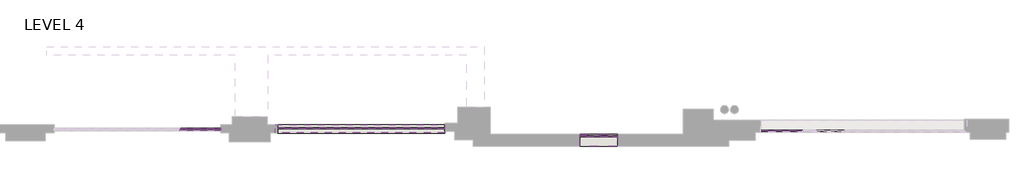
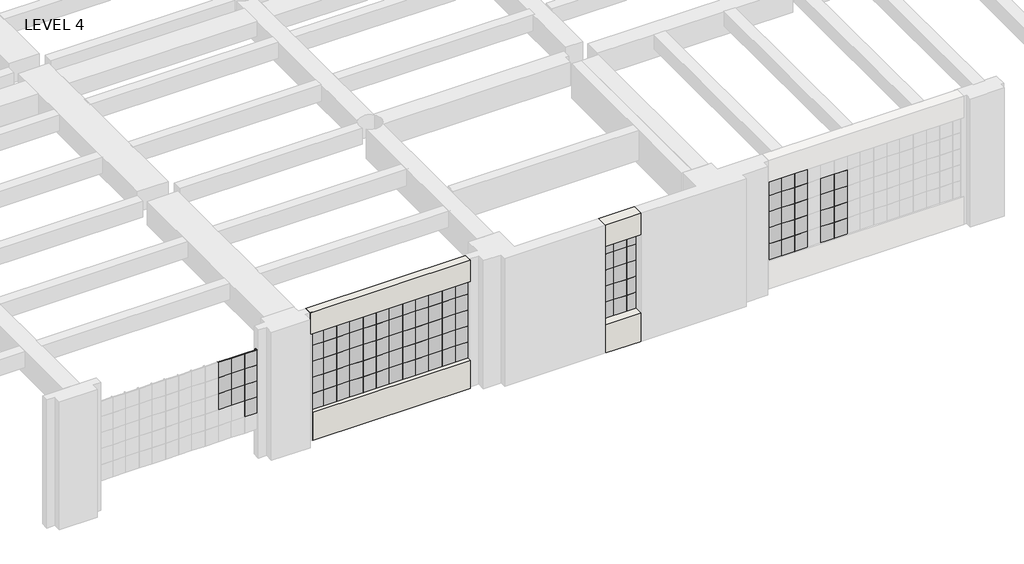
# One storey, part 8 of 26: 108 plates, 20 members, 4 walls.
"""IFC4 building model written with IfcOpenShell, lengths in millimetres."""

from ifc_helpers import new_model, si_unit, frame, origin, origin_with_axes, place, context, project, spatial, polyline, outline, extrude, transform, mapped, element, save
from components import member_038dcf1c, member_0e6c94ff, member_643a3807, member_6c57b699, member_ec43e15b, member_0f6da5c5, member_704305d1, member_9a471d53, system_panel_glazed_ab35d819, system_panel_glazed_331c9a5d, system_panel_glazed_917ff89a, system_panel_glazed_9007666c, system_panel_glazed_418eb6cd, system_panel_glazed_52470d25, system_panel_glazed_8fab215f, system_panel_glazed_a50cffbe

model = new_model("IFC4")

# Units and contexts
model_context = context("Model", 3, world=origin())
ifc_project = project(units=[si_unit("LENGTHUNIT", "METRE", prefix="MILLI")], contexts=[model_context])

# Site, building, storey
site = spatial("IfcSite", under=ifc_project)
building = spatial("IfcBuilding", under=site)
storey = spatial("IfcBuildingStorey", under=building, Name="LEVEL 4", Elevation=0.0)

# Members
placement = place(None, origin())
member_shape = member_038dcf1c(model_context)
element("IfcMember", 1, ObjectType="Circular Mullion : 1 1/4\" Square", at=placement, inside=storey, context=model_context, shape_type="MappedRepresentation", body=[
    mapped(member_shape, transform((-20956.6085473, 87322.5091334, 2171.7), x_axis=(1.0, 0.0, 0.0), y_axis=(0.0, -1.0, 0.0), z_axis=(0.0, 0.0, -1.0))),
])
element("IfcMember", 2, ObjectType="Circular Mullion : 1 1/4\" Square", at=placement, inside=storey, context=model_context, shape_type="MappedRepresentation", body=[
    mapped(member_shape, transform((-20956.6085473, 87322.5091334, 1714.5), x_axis=(1.0, 0.0, 0.0), y_axis=(0.0, -1.0, 0.0), z_axis=(0.0, 0.0, -1.0))),
])
element("IfcMember", 3, ObjectType="Circular Mullion : 1 1/4\" Square", at=placement, inside=storey, context=model_context, shape_type="MappedRepresentation", body=[
    mapped(member_shape, transform((-20956.6085473, 87322.5091334, 1257.3), x_axis=(1.0, 0.0, 0.0), y_axis=(0.0, -1.0, 0.0), z_axis=(0.0, 0.0, -1.0))),
])
element("IfcMember", 4, ObjectType="Circular Mullion : 1 1/4\" Square", at=placement, inside=storey, context=model_context, shape_type="MappedRepresentation", body=[
    mapped(member_shape, transform((-20956.6085473, 87322.5091334, 800.1), x_axis=(1.0, 0.0, 0.0), y_axis=(0.0, -1.0, 0.0), z_axis=(0.0, 0.0, -1.0))),
])
member_2_shape = member_0e6c94ff(model_context)
element("IfcMember", 5, ObjectType="Circular Mullion : 1 1/4\" Square", at=placement, inside=storey, context=model_context, shape_type="MappedRepresentation", body=[
    mapped(member_2_shape, transform((-20956.6085473, 87322.5091334, 2628.9), x_axis=(1.0, 0.0, 0.0), y_axis=(0.0, -1.0, 0.0), z_axis=(0.0, 0.0, -1.0))),
])
member_3_shape = member_643a3807(model_context)
element("IfcMember", 6, ObjectType="Circular Mullion : 1 1/4\" Square", at=placement, inside=storey, context=model_context, shape_type="MappedRepresentation", body=[
    mapped(member_3_shape, transform((-21294.9456347, 87322.5091334, 2628.9), x_axis=(0.0, 0.0, 1.0), y_axis=(0.0, -1.0, 0.0), z_axis=(1.0, 0.0, 0.0))),
])
element("IfcMember", 7, ObjectType="Circular Mullion : 1 1/4\" Square", at=placement, inside=storey, context=model_context, shape_type="MappedRepresentation", body=[
    mapped(member_3_shape, transform((-21294.9456347, 87322.5091334, 2171.7), x_axis=(0.0, 0.0, 1.0), y_axis=(0.0, -1.0, 0.0), z_axis=(1.0, 0.0, 0.0))),
])
element("IfcMember", 8, ObjectType="Circular Mullion : 1 1/4\" Square", at=placement, inside=storey, context=model_context, shape_type="MappedRepresentation", body=[
    mapped(member_3_shape, transform((-21294.9456347, 87322.5091334, 1714.5), x_axis=(0.0, 0.0, 1.0), y_axis=(0.0, -1.0, 0.0), z_axis=(1.0, 0.0, 0.0))),
])
element("IfcMember", 9, ObjectType="Circular Mullion : 1 1/4\" Square", at=placement, inside=storey, context=model_context, shape_type="MappedRepresentation", body=[
    mapped(member_3_shape, transform((-21294.9456347, 87322.5091334, 1257.3), x_axis=(0.0, 0.0, 1.0), y_axis=(0.0, -1.0, 0.0), z_axis=(1.0, 0.0, 0.0))),
])
member_4_shape = member_6c57b699(model_context)
element("IfcMember", 10, ObjectType="Circular Mullion : 1 1/4\" Square", at=placement, inside=storey, context=model_context, shape_type="MappedRepresentation", body=[
    mapped(member_4_shape, transform((-21650.5456347, 87322.5091334, 2628.9), x_axis=(0.0, 0.0, 1.0), y_axis=(0.0, -1.0, 0.0), z_axis=(1.0, 0.0, 0.0))),
])
element("IfcMember", 11, ObjectType="Circular Mullion : 1 1/4\" Square", at=placement, inside=storey, context=model_context, shape_type="MappedRepresentation", body=[
    mapped(member_4_shape, transform((-21650.5456347, 87322.5091334, 2171.7), x_axis=(0.0, 0.0, 1.0), y_axis=(0.0, -1.0, 0.0), z_axis=(1.0, 0.0, 0.0))),
])
element("IfcMember", 12, ObjectType="Circular Mullion : 1 1/4\" Square", at=placement, inside=storey, context=model_context, shape_type="MappedRepresentation", body=[
    mapped(member_4_shape, transform((-21650.5456347, 87322.5091334, 1714.5), x_axis=(0.0, 0.0, 1.0), y_axis=(0.0, -1.0, 0.0), z_axis=(1.0, 0.0, 0.0))),
])
element("IfcMember", 13, ObjectType="Circular Mullion : 1 1/4\" Square", at=placement, inside=storey, context=model_context, shape_type="MappedRepresentation", body=[
    mapped(member_4_shape, transform((-21650.5456347, 87322.5091334, 1257.3), x_axis=(0.0, 0.0, 1.0), y_axis=(0.0, -1.0, 0.0), z_axis=(1.0, 0.0, 0.0))),
])
member_5_shape = member_ec43e15b(model_context)
element("IfcMember", 14, ObjectType="Circular Mullion : 1 1/4\" Square", at=placement, inside=storey, context=model_context, shape_type="MappedRepresentation", body=[
    mapped(member_5_shape, transform((-21650.5456347, 87322.5091334, 800.1), x_axis=(0.0, 0.0, -1.0), y_axis=(0.0, -1.0, 0.0), z_axis=(-1.0, 0.0, 0.0))),
])
member_6_shape = member_0f6da5c5(model_context)
element("IfcMember", 15, ObjectType="Circular Mullion : 1 1/4\" Square", at=placement, inside=storey, context=model_context, shape_type="MappedRepresentation", body=[
    mapped(member_6_shape, transform((-21993.4456347, 87322.5091334, 800.1), x_axis=(0.0, 0.0, -1.0), y_axis=(0.0, -1.0, 0.0), z_axis=(-1.0, 0.0, 0.0))),
])
member_7_shape = member_704305d1(model_context)
element("IfcMember", 16, ObjectType="Circular Mullion : 1 1/4\" Square", at=placement, inside=storey, context=model_context, shape_type="MappedRepresentation", body=[
    mapped(member_7_shape, transform((-21294.9456347, 87322.5091334, 800.1), x_axis=(0.0, 0.0, -1.0), y_axis=(0.0, -1.0, 0.0), z_axis=(-1.0, 0.0, 0.0))),
])
member_8_shape = member_9a471d53(model_context)
element("IfcMember", 17, ObjectType="Circular Mullion : 1 1/4\" Square", at=placement, inside=storey, context=model_context, shape_type="MappedRepresentation", body=[
    mapped(member_8_shape, transform((-20982.0085473, 87322.5091334, 2628.9), x_axis=(0.0, 0.0, 1.0), y_axis=(0.0, -1.0, 0.0), z_axis=(1.0, 0.0, 0.0))),
])
element("IfcMember", 18, ObjectType="Circular Mullion : 1 1/4\" Square", at=placement, inside=storey, context=model_context, shape_type="MappedRepresentation", body=[
    mapped(member_8_shape, transform((-20982.0085473, 87322.5091334, 2171.7), x_axis=(0.0, 0.0, 1.0), y_axis=(0.0, -1.0, 0.0), z_axis=(1.0, 0.0, 0.0))),
])
element("IfcMember", 19, ObjectType="Circular Mullion : 1 1/4\" Square", at=placement, inside=storey, context=model_context, shape_type="MappedRepresentation", body=[
    mapped(member_8_shape, transform((-20982.0085473, 87322.5091334, 1714.5), x_axis=(0.0, 0.0, 1.0), y_axis=(0.0, -1.0, 0.0), z_axis=(1.0, 0.0, 0.0))),
])
element("IfcMember", 20, ObjectType="Circular Mullion : 1 1/4\" Square", at=placement, inside=storey, context=model_context, shape_type="MappedRepresentation", body=[
    mapped(member_8_shape, transform((-20982.0085473, 87322.5091334, 1257.3), x_axis=(0.0, 0.0, 1.0), y_axis=(0.0, -1.0, 0.0), z_axis=(1.0, 0.0, 0.0))),
])

# Plates
system_panel_glazed_shape = system_panel_glazed_ab35d819(model_context)
element("IfcPlate", 21, ObjectType="System Panel : Glazed", at=placement, inside=storey, context=model_context, shape_type="MappedRepresentation", body=[
    mapped(system_panel_glazed_shape, transform((-19320.130019, 87366.3092432, 800.1), x_axis=(1.0, 0.0, 0.0), y_axis=(0.0, 1.0, 0.0), z_axis=(0.0, 0.0, 1.0))),
])
element("IfcPlate", 22, ObjectType="System Panel : Glazed", at=placement, inside=storey, context=model_context, shape_type="MappedRepresentation", body=[
    mapped(system_panel_glazed_shape, transform((-15764.1300189, 87366.3092432, 800.1), x_axis=(1.0, 0.0, 0.0), y_axis=(0.0, 1.0, 0.0), z_axis=(0.0, 0.0, 1.0))),
])
element("IfcPlate", 23, ObjectType="System Panel : Glazed", at=placement, inside=storey, context=model_context, shape_type="MappedRepresentation", body=[
    mapped(system_panel_glazed_shape, transform((-11615.7585471, 87161.7778542, 800.1), x_axis=(1.0, 0.0, 0.0), y_axis=(0.0, 1.0, 0.0), z_axis=(0.0, 0.0, 1.0))),
])
element("IfcPlate", 24, ObjectType="System Panel : Glazed", at=placement, inside=storey, context=model_context, shape_type="MappedRepresentation", body=[
    mapped(system_panel_glazed_shape, transform((-6999.3085471, 87313.5556598, 800.1), x_axis=(1.0, 0.0, 0.0), y_axis=(0.0, 1.0, 0.0), z_axis=(0.0, 0.0, 1.0))),
])
element("IfcPlate", 25, ObjectType="System Panel : Glazed", at=placement, inside=storey, context=model_context, shape_type="MappedRepresentation", body=[
    mapped(system_panel_glazed_shape, transform((-21828.3456347, 87322.5091334, 1714.5), x_axis=(1.0, 0.0, 0.0), y_axis=(0.0, 1.0, 0.0), z_axis=(0.0, 0.0, 1.0))),
])
element("IfcPlate", 26, ObjectType="System Panel : Glazed", at=placement, inside=storey, context=model_context, shape_type="MappedRepresentation", body=[
    mapped(system_panel_glazed_shape, transform((-21472.7456347, 87322.5091334, 1714.5), x_axis=(1.0, 0.0, 0.0), y_axis=(0.0, 1.0, 0.0), z_axis=(0.0, 0.0, 1.0))),
])
element("IfcPlate", 27, ObjectType="System Panel : Glazed", at=placement, inside=storey, context=model_context, shape_type="MappedRepresentation", body=[
    mapped(system_panel_glazed_shape, transform((-21828.3456347, 87322.5091334, 2171.7), x_axis=(1.0, 0.0, 0.0), y_axis=(0.0, 1.0, 0.0), z_axis=(0.0, 0.0, 1.0))),
])
element("IfcPlate", 28, ObjectType="System Panel : Glazed", at=placement, inside=storey, context=model_context, shape_type="MappedRepresentation", body=[
    mapped(system_panel_glazed_shape, transform((-21472.7456347, 87322.5091334, 2171.7), x_axis=(1.0, 0.0, 0.0), y_axis=(0.0, 1.0, 0.0), z_axis=(0.0, 0.0, 1.0))),
])
element("IfcPlate", 29, ObjectType="System Panel : Glazed", at=placement, inside=storey, context=model_context, shape_type="MappedRepresentation", body=[
    mapped(system_panel_glazed_shape, transform((-16119.7300189, 87366.3092432, 800.1), x_axis=(1.0, 0.0, 0.0), y_axis=(0.0, 1.0, 0.0), z_axis=(0.0, 0.0, 1.0))),
])
element("IfcPlate", 30, ObjectType="System Panel : Glazed", at=placement, inside=storey, context=model_context, shape_type="MappedRepresentation", body=[
    mapped(system_panel_glazed_shape, transform((-16475.3300189, 87366.3092432, 800.1), x_axis=(1.0, 0.0, 0.0), y_axis=(0.0, 1.0, 0.0), z_axis=(0.0, 0.0, 1.0))),
])
element("IfcPlate", 31, ObjectType="System Panel : Glazed", at=placement, inside=storey, context=model_context, shape_type="MappedRepresentation", body=[
    mapped(system_panel_glazed_shape, transform((-16830.9300189, 87366.3092432, 800.1), x_axis=(1.0, 0.0, 0.0), y_axis=(0.0, 1.0, 0.0), z_axis=(0.0, 0.0, 1.0))),
])
element("IfcPlate", 32, ObjectType="System Panel : Glazed", at=placement, inside=storey, context=model_context, shape_type="MappedRepresentation", body=[
    mapped(system_panel_glazed_shape, transform((-17186.5300189, 87366.3092432, 800.1), x_axis=(1.0, 0.0, 0.0), y_axis=(0.0, 1.0, 0.0), z_axis=(0.0, 0.0, 1.0))),
])
element("IfcPlate", 33, ObjectType="System Panel : Glazed", at=placement, inside=storey, context=model_context, shape_type="MappedRepresentation", body=[
    mapped(system_panel_glazed_shape, transform((-17542.1300189, 87366.3092432, 800.1), x_axis=(1.0, 0.0, 0.0), y_axis=(0.0, 1.0, 0.0), z_axis=(0.0, 0.0, 1.0))),
])
element("IfcPlate", 34, ObjectType="System Panel : Glazed", at=placement, inside=storey, context=model_context, shape_type="MappedRepresentation", body=[
    mapped(system_panel_glazed_shape, transform((-17897.7300189, 87366.3092432, 800.1), x_axis=(1.0, 0.0, 0.0), y_axis=(0.0, 1.0, 0.0), z_axis=(0.0, 0.0, 1.0))),
])
element("IfcPlate", 35, ObjectType="System Panel : Glazed", at=placement, inside=storey, context=model_context, shape_type="MappedRepresentation", body=[
    mapped(system_panel_glazed_shape, transform((-18253.3300189, 87366.3092432, 800.1), x_axis=(1.0, 0.0, 0.0), y_axis=(0.0, 1.0, 0.0), z_axis=(0.0, 0.0, 1.0))),
])
element("IfcPlate", 36, ObjectType="System Panel : Glazed", at=placement, inside=storey, context=model_context, shape_type="MappedRepresentation", body=[
    mapped(system_panel_glazed_shape, transform((-19320.130019, 87366.3092432, 1257.3), x_axis=(1.0, 0.0, 0.0), y_axis=(0.0, 1.0, 0.0), z_axis=(0.0, 0.0, 1.0))),
])
element("IfcPlate", 37, ObjectType="System Panel : Glazed", at=placement, inside=storey, context=model_context, shape_type="MappedRepresentation", body=[
    mapped(system_panel_glazed_shape, transform((-16119.7300189, 87366.3092432, 1257.3), x_axis=(1.0, 0.0, 0.0), y_axis=(0.0, 1.0, 0.0), z_axis=(0.0, 0.0, 1.0))),
])
element("IfcPlate", 38, ObjectType="System Panel : Glazed", at=placement, inside=storey, context=model_context, shape_type="MappedRepresentation", body=[
    mapped(system_panel_glazed_shape, transform((-16475.3300189, 87366.3092432, 1257.3), x_axis=(1.0, 0.0, 0.0), y_axis=(0.0, 1.0, 0.0), z_axis=(0.0, 0.0, 1.0))),
])
element("IfcPlate", 39, ObjectType="System Panel : Glazed", at=placement, inside=storey, context=model_context, shape_type="MappedRepresentation", body=[
    mapped(system_panel_glazed_shape, transform((-16830.9300189, 87366.3092432, 1257.3), x_axis=(1.0, 0.0, 0.0), y_axis=(0.0, 1.0, 0.0), z_axis=(0.0, 0.0, 1.0))),
])
element("IfcPlate", 40, ObjectType="System Panel : Glazed", at=placement, inside=storey, context=model_context, shape_type="MappedRepresentation", body=[
    mapped(system_panel_glazed_shape, transform((-17186.5300189, 87366.3092432, 1257.3), x_axis=(1.0, 0.0, 0.0), y_axis=(0.0, 1.0, 0.0), z_axis=(0.0, 0.0, 1.0))),
])
element("IfcPlate", 41, ObjectType="System Panel : Glazed", at=placement, inside=storey, context=model_context, shape_type="MappedRepresentation", body=[
    mapped(system_panel_glazed_shape, transform((-17542.1300189, 87366.3092432, 1257.3), x_axis=(1.0, 0.0, 0.0), y_axis=(0.0, 1.0, 0.0), z_axis=(0.0, 0.0, 1.0))),
])
element("IfcPlate", 42, ObjectType="System Panel : Glazed", at=placement, inside=storey, context=model_context, shape_type="MappedRepresentation", body=[
    mapped(system_panel_glazed_shape, transform((-17897.7300189, 87366.3092432, 1257.3), x_axis=(1.0, 0.0, 0.0), y_axis=(0.0, 1.0, 0.0), z_axis=(0.0, 0.0, 1.0))),
])
element("IfcPlate", 43, ObjectType="System Panel : Glazed", at=placement, inside=storey, context=model_context, shape_type="MappedRepresentation", body=[
    mapped(system_panel_glazed_shape, transform((-18253.3300189, 87366.3092432, 1257.3), x_axis=(1.0, 0.0, 0.0), y_axis=(0.0, 1.0, 0.0), z_axis=(0.0, 0.0, 1.0))),
])
element("IfcPlate", 44, ObjectType="System Panel : Glazed", at=placement, inside=storey, context=model_context, shape_type="MappedRepresentation", body=[
    mapped(system_panel_glazed_shape, transform((-15764.1300189, 87366.3092432, 1257.3), x_axis=(1.0, 0.0, 0.0), y_axis=(0.0, 1.0, 0.0), z_axis=(0.0, 0.0, 1.0))),
])
element("IfcPlate", 45, ObjectType="System Panel : Glazed", at=placement, inside=storey, context=model_context, shape_type="MappedRepresentation", body=[
    mapped(system_panel_glazed_shape, transform((-19320.130019, 87366.3092432, 1714.5), x_axis=(1.0, 0.0, 0.0), y_axis=(0.0, 1.0, 0.0), z_axis=(0.0, 0.0, 1.0))),
])
element("IfcPlate", 46, ObjectType="System Panel : Glazed", at=placement, inside=storey, context=model_context, shape_type="MappedRepresentation", body=[
    mapped(system_panel_glazed_shape, transform((-16119.7300189, 87366.3092432, 1714.5), x_axis=(1.0, 0.0, 0.0), y_axis=(0.0, 1.0, 0.0), z_axis=(0.0, 0.0, 1.0))),
])
element("IfcPlate", 47, ObjectType="System Panel : Glazed", at=placement, inside=storey, context=model_context, shape_type="MappedRepresentation", body=[
    mapped(system_panel_glazed_shape, transform((-16475.3300189, 87366.3092432, 1714.5), x_axis=(1.0, 0.0, 0.0), y_axis=(0.0, 1.0, 0.0), z_axis=(0.0, 0.0, 1.0))),
])
element("IfcPlate", 48, ObjectType="System Panel : Glazed", at=placement, inside=storey, context=model_context, shape_type="MappedRepresentation", body=[
    mapped(system_panel_glazed_shape, transform((-16830.9300189, 87366.3092432, 1714.5), x_axis=(1.0, 0.0, 0.0), y_axis=(0.0, 1.0, 0.0), z_axis=(0.0, 0.0, 1.0))),
])
element("IfcPlate", 49, ObjectType="System Panel : Glazed", at=placement, inside=storey, context=model_context, shape_type="MappedRepresentation", body=[
    mapped(system_panel_glazed_shape, transform((-17186.5300189, 87366.3092432, 1714.5), x_axis=(1.0, 0.0, 0.0), y_axis=(0.0, 1.0, 0.0), z_axis=(0.0, 0.0, 1.0))),
])
element("IfcPlate", 50, ObjectType="System Panel : Glazed", at=placement, inside=storey, context=model_context, shape_type="MappedRepresentation", body=[
    mapped(system_panel_glazed_shape, transform((-17542.1300189, 87366.3092432, 1714.5), x_axis=(1.0, 0.0, 0.0), y_axis=(0.0, 1.0, 0.0), z_axis=(0.0, 0.0, 1.0))),
])
element("IfcPlate", 51, ObjectType="System Panel : Glazed", at=placement, inside=storey, context=model_context, shape_type="MappedRepresentation", body=[
    mapped(system_panel_glazed_shape, transform((-17897.7300189, 87366.3092432, 1714.5), x_axis=(1.0, 0.0, 0.0), y_axis=(0.0, 1.0, 0.0), z_axis=(0.0, 0.0, 1.0))),
])
element("IfcPlate", 52, ObjectType="System Panel : Glazed", at=placement, inside=storey, context=model_context, shape_type="MappedRepresentation", body=[
    mapped(system_panel_glazed_shape, transform((-18253.3300189, 87366.3092432, 1714.5), x_axis=(1.0, 0.0, 0.0), y_axis=(0.0, 1.0, 0.0), z_axis=(0.0, 0.0, 1.0))),
])
element("IfcPlate", 53, ObjectType="System Panel : Glazed", at=placement, inside=storey, context=model_context, shape_type="MappedRepresentation", body=[
    mapped(system_panel_glazed_shape, transform((-15764.1300189, 87366.3092432, 1714.5), x_axis=(1.0, 0.0, 0.0), y_axis=(0.0, 1.0, 0.0), z_axis=(0.0, 0.0, 1.0))),
])
element("IfcPlate", 54, ObjectType="System Panel : Glazed", at=placement, inside=storey, context=model_context, shape_type="MappedRepresentation", body=[
    mapped(system_panel_glazed_shape, transform((-19320.130019, 87366.3092432, 2171.7), x_axis=(1.0, 0.0, 0.0), y_axis=(0.0, 1.0, 0.0), z_axis=(0.0, 0.0, 1.0))),
])
element("IfcPlate", 55, ObjectType="System Panel : Glazed", at=placement, inside=storey, context=model_context, shape_type="MappedRepresentation", body=[
    mapped(system_panel_glazed_shape, transform((-16119.7300189, 87366.3092432, 2171.7), x_axis=(1.0, 0.0, 0.0), y_axis=(0.0, 1.0, 0.0), z_axis=(0.0, 0.0, 1.0))),
])
element("IfcPlate", 56, ObjectType="System Panel : Glazed", at=placement, inside=storey, context=model_context, shape_type="MappedRepresentation", body=[
    mapped(system_panel_glazed_shape, transform((-16475.3300189, 87366.3092432, 2171.7), x_axis=(1.0, 0.0, 0.0), y_axis=(0.0, 1.0, 0.0), z_axis=(0.0, 0.0, 1.0))),
])
element("IfcPlate", 57, ObjectType="System Panel : Glazed", at=placement, inside=storey, context=model_context, shape_type="MappedRepresentation", body=[
    mapped(system_panel_glazed_shape, transform((-16830.9300189, 87366.3092432, 2171.7), x_axis=(1.0, 0.0, 0.0), y_axis=(0.0, 1.0, 0.0), z_axis=(0.0, 0.0, 1.0))),
])
element("IfcPlate", 58, ObjectType="System Panel : Glazed", at=placement, inside=storey, context=model_context, shape_type="MappedRepresentation", body=[
    mapped(system_panel_glazed_shape, transform((-17186.5300189, 87366.3092432, 2171.7), x_axis=(1.0, 0.0, 0.0), y_axis=(0.0, 1.0, 0.0), z_axis=(0.0, 0.0, 1.0))),
])
element("IfcPlate", 59, ObjectType="System Panel : Glazed", at=placement, inside=storey, context=model_context, shape_type="MappedRepresentation", body=[
    mapped(system_panel_glazed_shape, transform((-17542.1300189, 87366.3092432, 2171.7), x_axis=(1.0, 0.0, 0.0), y_axis=(0.0, 1.0, 0.0), z_axis=(0.0, 0.0, 1.0))),
])
element("IfcPlate", 60, ObjectType="System Panel : Glazed", at=placement, inside=storey, context=model_context, shape_type="MappedRepresentation", body=[
    mapped(system_panel_glazed_shape, transform((-17897.7300189, 87366.3092432, 2171.7), x_axis=(1.0, 0.0, 0.0), y_axis=(0.0, 1.0, 0.0), z_axis=(0.0, 0.0, 1.0))),
])
element("IfcPlate", 61, ObjectType="System Panel : Glazed", at=placement, inside=storey, context=model_context, shape_type="MappedRepresentation", body=[
    mapped(system_panel_glazed_shape, transform((-18253.3300189, 87366.3092432, 2171.7), x_axis=(1.0, 0.0, 0.0), y_axis=(0.0, 1.0, 0.0), z_axis=(0.0, 0.0, 1.0))),
])
element("IfcPlate", 62, ObjectType="System Panel : Glazed", at=placement, inside=storey, context=model_context, shape_type="MappedRepresentation", body=[
    mapped(system_panel_glazed_shape, transform((-15764.1300189, 87366.3092432, 2171.7), x_axis=(1.0, 0.0, 0.0), y_axis=(0.0, 1.0, 0.0), z_axis=(0.0, 0.0, 1.0))),
])
element("IfcPlate", 63, ObjectType="System Panel : Glazed", at=placement, inside=storey, context=model_context, shape_type="MappedRepresentation", body=[
    mapped(system_panel_glazed_shape, transform((-11260.158547, 87161.7778542, 800.1), x_axis=(1.0, 0.0, 0.0), y_axis=(0.0, 1.0, 0.0), z_axis=(0.0, 0.0, 1.0))),
])
element("IfcPlate", 64, ObjectType="System Panel : Glazed", at=placement, inside=storey, context=model_context, shape_type="MappedRepresentation", body=[
    mapped(system_panel_glazed_shape, transform((-11615.7585471, 87161.7778542, 1257.3), x_axis=(1.0, 0.0, 0.0), y_axis=(0.0, 1.0, 0.0), z_axis=(0.0, 0.0, 1.0))),
])
element("IfcPlate", 65, ObjectType="System Panel : Glazed", at=placement, inside=storey, context=model_context, shape_type="MappedRepresentation", body=[
    mapped(system_panel_glazed_shape, transform((-11260.158547, 87161.7778542, 1257.3), x_axis=(1.0, 0.0, 0.0), y_axis=(0.0, 1.0, 0.0), z_axis=(0.0, 0.0, 1.0))),
])
element("IfcPlate", 66, ObjectType="System Panel : Glazed", at=placement, inside=storey, context=model_context, shape_type="MappedRepresentation", body=[
    mapped(system_panel_glazed_shape, transform((-11615.7585471, 87161.7778542, 1714.5), x_axis=(1.0, 0.0, 0.0), y_axis=(0.0, 1.0, 0.0), z_axis=(0.0, 0.0, 1.0))),
])
element("IfcPlate", 67, ObjectType="System Panel : Glazed", at=placement, inside=storey, context=model_context, shape_type="MappedRepresentation", body=[
    mapped(system_panel_glazed_shape, transform((-11260.158547, 87161.7778542, 1714.5), x_axis=(1.0, 0.0, 0.0), y_axis=(0.0, 1.0, 0.0), z_axis=(0.0, 0.0, 1.0))),
])
element("IfcPlate", 68, ObjectType="System Panel : Glazed", at=placement, inside=storey, context=model_context, shape_type="MappedRepresentation", body=[
    mapped(system_panel_glazed_shape, transform((-11615.7585471, 87161.7778542, 2171.7), x_axis=(1.0, 0.0, 0.0), y_axis=(0.0, 1.0, 0.0), z_axis=(0.0, 0.0, 1.0))),
])
element("IfcPlate", 69, ObjectType="System Panel : Glazed", at=placement, inside=storey, context=model_context, shape_type="MappedRepresentation", body=[
    mapped(system_panel_glazed_shape, transform((-11260.158547, 87161.7778542, 2171.7), x_axis=(1.0, 0.0, 0.0), y_axis=(0.0, 1.0, 0.0), z_axis=(0.0, 0.0, 1.0))),
])
element("IfcPlate", 70, ObjectType="System Panel : Glazed", at=placement, inside=storey, context=model_context, shape_type="MappedRepresentation", body=[
    mapped(system_panel_glazed_shape, transform((-5221.308547, 87313.5556598, 800.1), x_axis=(1.0, 0.0, 0.0), y_axis=(0.0, 1.0, 0.0), z_axis=(0.0, 0.0, 1.0))),
])
element("IfcPlate", 71, ObjectType="System Panel : Glazed", at=placement, inside=storey, context=model_context, shape_type="MappedRepresentation", body=[
    mapped(system_panel_glazed_shape, transform((-5576.908547, 87313.5556598, 800.1), x_axis=(1.0, 0.0, 0.0), y_axis=(0.0, 1.0, 0.0), z_axis=(0.0, 0.0, 1.0))),
])
element("IfcPlate", 72, ObjectType="System Panel : Glazed", at=placement, inside=storey, context=model_context, shape_type="MappedRepresentation", body=[
    mapped(system_panel_glazed_shape, transform((-6999.3085471, 87313.5556598, 1257.3), x_axis=(1.0, 0.0, 0.0), y_axis=(0.0, 1.0, 0.0), z_axis=(0.0, 0.0, 1.0))),
])
element("IfcPlate", 73, ObjectType="System Panel : Glazed", at=placement, inside=storey, context=model_context, shape_type="MappedRepresentation", body=[
    mapped(system_panel_glazed_shape, transform((-5221.308547, 87313.5556598, 1257.3), x_axis=(1.0, 0.0, 0.0), y_axis=(0.0, 1.0, 0.0), z_axis=(0.0, 0.0, 1.0))),
])
element("IfcPlate", 74, ObjectType="System Panel : Glazed", at=placement, inside=storey, context=model_context, shape_type="MappedRepresentation", body=[
    mapped(system_panel_glazed_shape, transform((-5576.908547, 87313.5556598, 1257.3), x_axis=(1.0, 0.0, 0.0), y_axis=(0.0, 1.0, 0.0), z_axis=(0.0, 0.0, 1.0))),
])
element("IfcPlate", 75, ObjectType="System Panel : Glazed", at=placement, inside=storey, context=model_context, shape_type="MappedRepresentation", body=[
    mapped(system_panel_glazed_shape, transform((-6999.3085471, 87313.5556598, 1714.5), x_axis=(1.0, 0.0, 0.0), y_axis=(0.0, 1.0, 0.0), z_axis=(0.0, 0.0, 1.0))),
])
element("IfcPlate", 76, ObjectType="System Panel : Glazed", at=placement, inside=storey, context=model_context, shape_type="MappedRepresentation", body=[
    mapped(system_panel_glazed_shape, transform((-5221.308547, 87313.5556598, 1714.5), x_axis=(1.0, 0.0, 0.0), y_axis=(0.0, 1.0, 0.0), z_axis=(0.0, 0.0, 1.0))),
])
element("IfcPlate", 77, ObjectType="System Panel : Glazed", at=placement, inside=storey, context=model_context, shape_type="MappedRepresentation", body=[
    mapped(system_panel_glazed_shape, transform((-5576.908547, 87313.5556598, 1714.5), x_axis=(1.0, 0.0, 0.0), y_axis=(0.0, 1.0, 0.0), z_axis=(0.0, 0.0, 1.0))),
])
element("IfcPlate", 78, ObjectType="System Panel : Glazed", at=placement, inside=storey, context=model_context, shape_type="MappedRepresentation", body=[
    mapped(system_panel_glazed_shape, transform((-6999.3085471, 87313.5556598, 2171.7), x_axis=(1.0, 0.0, 0.0), y_axis=(0.0, 1.0, 0.0), z_axis=(0.0, 0.0, 1.0))),
])
element("IfcPlate", 79, ObjectType="System Panel : Glazed", at=placement, inside=storey, context=model_context, shape_type="MappedRepresentation", body=[
    mapped(system_panel_glazed_shape, transform((-5221.308547, 87313.5556598, 2171.7), x_axis=(1.0, 0.0, 0.0), y_axis=(0.0, 1.0, 0.0), z_axis=(0.0, 0.0, 1.0))),
])
element("IfcPlate", 80, ObjectType="System Panel : Glazed", at=placement, inside=storey, context=model_context, shape_type="MappedRepresentation", body=[
    mapped(system_panel_glazed_shape, transform((-5576.908547, 87313.5556598, 2171.7), x_axis=(1.0, 0.0, 0.0), y_axis=(0.0, 1.0, 0.0), z_axis=(0.0, 0.0, 1.0))),
])
element("IfcPlate", 81, ObjectType="System Panel : Glazed", at=placement, inside=storey, context=model_context, shape_type="MappedRepresentation", body=[
    mapped(system_panel_glazed_shape, transform((-18608.9300189, 87366.3092432, 800.1), x_axis=(1.0, 0.0, 0.0), y_axis=(0.0, 1.0, 0.0), z_axis=(0.0, 0.0, 1.0))),
])
element("IfcPlate", 82, ObjectType="System Panel : Glazed", at=placement, inside=storey, context=model_context, shape_type="MappedRepresentation", body=[
    mapped(system_panel_glazed_shape, transform((-18608.9300189, 87366.3092432, 1257.3), x_axis=(1.0, 0.0, 0.0), y_axis=(0.0, 1.0, 0.0), z_axis=(0.0, 0.0, 1.0))),
])
element("IfcPlate", 83, ObjectType="System Panel : Glazed", at=placement, inside=storey, context=model_context, shape_type="MappedRepresentation", body=[
    mapped(system_panel_glazed_shape, transform((-18608.9300189, 87366.3092432, 1714.5), x_axis=(1.0, 0.0, 0.0), y_axis=(0.0, 1.0, 0.0), z_axis=(0.0, 0.0, 1.0))),
])
element("IfcPlate", 84, ObjectType="System Panel : Glazed", at=placement, inside=storey, context=model_context, shape_type="MappedRepresentation", body=[
    mapped(system_panel_glazed_shape, transform((-18608.9300189, 87366.3092432, 2171.7), x_axis=(1.0, 0.0, 0.0), y_axis=(0.0, 1.0, 0.0), z_axis=(0.0, 0.0, 1.0))),
])
element("IfcPlate", 85, ObjectType="System Panel : Glazed", at=placement, inside=storey, context=model_context, shape_type="MappedRepresentation", body=[
    mapped(system_panel_glazed_shape, transform((-18964.5300189, 87366.3092432, 800.1), x_axis=(1.0, 0.0, 0.0), y_axis=(0.0, 1.0, 0.0), z_axis=(0.0, 0.0, 1.0))),
])
element("IfcPlate", 86, ObjectType="System Panel : Glazed", at=placement, inside=storey, context=model_context, shape_type="MappedRepresentation", body=[
    mapped(system_panel_glazed_shape, transform((-18964.5300189, 87366.3092432, 1257.3), x_axis=(1.0, 0.0, 0.0), y_axis=(0.0, 1.0, 0.0), z_axis=(0.0, 0.0, 1.0))),
])
element("IfcPlate", 87, ObjectType="System Panel : Glazed", at=placement, inside=storey, context=model_context, shape_type="MappedRepresentation", body=[
    mapped(system_panel_glazed_shape, transform((-18964.5300189, 87366.3092432, 1714.5), x_axis=(1.0, 0.0, 0.0), y_axis=(0.0, 1.0, 0.0), z_axis=(0.0, 0.0, 1.0))),
])
element("IfcPlate", 88, ObjectType="System Panel : Glazed", at=placement, inside=storey, context=model_context, shape_type="MappedRepresentation", body=[
    mapped(system_panel_glazed_shape, transform((-18964.5300189, 87366.3092432, 2171.7), x_axis=(1.0, 0.0, 0.0), y_axis=(0.0, 1.0, 0.0), z_axis=(0.0, 0.0, 1.0))),
])
element("IfcPlate", 89, ObjectType="System Panel : Glazed", at=placement, inside=storey, context=model_context, shape_type="MappedRepresentation", body=[
    mapped(system_panel_glazed_shape, transform((-6288.108547, 87313.5556598, 800.1), x_axis=(1.0, 0.0, 0.0), y_axis=(0.0, 1.0, 0.0), z_axis=(0.0, 0.0, 1.0))),
])
element("IfcPlate", 90, ObjectType="System Panel : Glazed", at=placement, inside=storey, context=model_context, shape_type="MappedRepresentation", body=[
    mapped(system_panel_glazed_shape, transform((-6288.108547, 87313.5556598, 1257.3), x_axis=(1.0, 0.0, 0.0), y_axis=(0.0, 1.0, 0.0), z_axis=(0.0, 0.0, 1.0))),
])
element("IfcPlate", 91, ObjectType="System Panel : Glazed", at=placement, inside=storey, context=model_context, shape_type="MappedRepresentation", body=[
    mapped(system_panel_glazed_shape, transform((-6288.108547, 87313.5556598, 1714.5), x_axis=(1.0, 0.0, 0.0), y_axis=(0.0, 1.0, 0.0), z_axis=(0.0, 0.0, 1.0))),
])
element("IfcPlate", 92, ObjectType="System Panel : Glazed", at=placement, inside=storey, context=model_context, shape_type="MappedRepresentation", body=[
    mapped(system_panel_glazed_shape, transform((-6288.108547, 87313.5556598, 2171.7), x_axis=(1.0, 0.0, 0.0), y_axis=(0.0, 1.0, 0.0), z_axis=(0.0, 0.0, 1.0))),
])
element("IfcPlate", 93, ObjectType="System Panel : Glazed", at=placement, inside=storey, context=model_context, shape_type="MappedRepresentation", body=[
    mapped(system_panel_glazed_shape, transform((-6643.708547, 87313.5556598, 800.1), x_axis=(1.0, 0.0, 0.0), y_axis=(0.0, 1.0, 0.0), z_axis=(0.0, 0.0, 1.0))),
])
element("IfcPlate", 94, ObjectType="System Panel : Glazed", at=placement, inside=storey, context=model_context, shape_type="MappedRepresentation", body=[
    mapped(system_panel_glazed_shape, transform((-6643.708547, 87313.5556598, 1257.3), x_axis=(1.0, 0.0, 0.0), y_axis=(0.0, 1.0, 0.0), z_axis=(0.0, 0.0, 1.0))),
])
element("IfcPlate", 95, ObjectType="System Panel : Glazed", at=placement, inside=storey, context=model_context, shape_type="MappedRepresentation", body=[
    mapped(system_panel_glazed_shape, transform((-6643.708547, 87313.5556598, 1714.5), x_axis=(1.0, 0.0, 0.0), y_axis=(0.0, 1.0, 0.0), z_axis=(0.0, 0.0, 1.0))),
])
element("IfcPlate", 96, ObjectType="System Panel : Glazed", at=placement, inside=storey, context=model_context, shape_type="MappedRepresentation", body=[
    mapped(system_panel_glazed_shape, transform((-6643.708547, 87313.5556598, 2171.7), x_axis=(1.0, 0.0, 0.0), y_axis=(0.0, 1.0, 0.0), z_axis=(0.0, 0.0, 1.0))),
])
system_panel_glazed_2_shape = system_panel_glazed_331c9a5d(model_context)
element("IfcPlate", 97, ObjectType="System Panel : Glazed", at=placement, inside=storey, context=model_context, shape_type="MappedRepresentation", body=[
    mapped(system_panel_glazed_2_shape, transform((-21125.777091, 87322.5091334, 1257.3), x_axis=(1.0, 0.0, 0.0), y_axis=(0.0, 1.0, 0.0), z_axis=(0.0, 0.0, 1.0))),
])
element("IfcPlate", 98, ObjectType="System Panel : Glazed", at=placement, inside=storey, context=model_context, shape_type="MappedRepresentation", body=[
    mapped(system_panel_glazed_2_shape, transform((-21125.777091, 87322.5091334, 1714.5), x_axis=(1.0, 0.0, 0.0), y_axis=(0.0, 1.0, 0.0), z_axis=(0.0, 0.0, 1.0))),
])
element("IfcPlate", 99, ObjectType="System Panel : Glazed", at=placement, inside=storey, context=model_context, shape_type="MappedRepresentation", body=[
    mapped(system_panel_glazed_2_shape, transform((-21125.777091, 87322.5091334, 2171.7), x_axis=(1.0, 0.0, 0.0), y_axis=(0.0, 1.0, 0.0), z_axis=(0.0, 0.0, 1.0))),
])
system_panel_glazed_3_shape = system_panel_glazed_917ff89a(model_context)
element("IfcPlate", 100, ObjectType="System Panel : Glazed", at=placement, inside=storey, context=model_context, shape_type="MappedRepresentation", body=[
    mapped(system_panel_glazed_3_shape, transform((-15414.4657369, 87366.3092432, 800.1), x_axis=(1.0, 0.0, 0.0), y_axis=(0.0, 1.0, 0.0), z_axis=(0.0, 0.0, 1.0))),
])
element("IfcPlate", 101, ObjectType="System Panel : Glazed", at=placement, inside=storey, context=model_context, shape_type="MappedRepresentation", body=[
    mapped(system_panel_glazed_3_shape, transform((-15414.4657369, 87366.3092432, 1257.3), x_axis=(1.0, 0.0, 0.0), y_axis=(0.0, 1.0, 0.0), z_axis=(0.0, 0.0, 1.0))),
])
element("IfcPlate", 102, ObjectType="System Panel : Glazed", at=placement, inside=storey, context=model_context, shape_type="MappedRepresentation", body=[
    mapped(system_panel_glazed_3_shape, transform((-15414.4657369, 87366.3092432, 1714.5), x_axis=(1.0, 0.0, 0.0), y_axis=(0.0, 1.0, 0.0), z_axis=(0.0, 0.0, 1.0))),
])
element("IfcPlate", 103, ObjectType="System Panel : Glazed", at=placement, inside=storey, context=model_context, shape_type="MappedRepresentation", body=[
    mapped(system_panel_glazed_3_shape, transform((-15414.4657369, 87366.3092432, 2171.7), x_axis=(1.0, 0.0, 0.0), y_axis=(0.0, 1.0, 0.0), z_axis=(0.0, 0.0, 1.0))),
])
system_panel_glazed_4_shape = system_panel_glazed_9007666c(model_context)
element("IfcPlate", 104, ObjectType="System Panel : Glazed", at=placement, inside=storey, context=model_context, shape_type="MappedRepresentation", body=[
    mapped(system_panel_glazed_4_shape, transform((-10955.3585471, 87161.7778542, 800.1), x_axis=(1.0, 0.0, 0.0), y_axis=(0.0, 1.0, 0.0), z_axis=(0.0, 0.0, 1.0))),
])
element("IfcPlate", 105, ObjectType="System Panel : Glazed", at=placement, inside=storey, context=model_context, shape_type="MappedRepresentation", body=[
    mapped(system_panel_glazed_4_shape, transform((-10955.3585471, 87161.7778542, 1257.3), x_axis=(1.0, 0.0, 0.0), y_axis=(0.0, 1.0, 0.0), z_axis=(0.0, 0.0, 1.0))),
])
element("IfcPlate", 106, ObjectType="System Panel : Glazed", at=placement, inside=storey, context=model_context, shape_type="MappedRepresentation", body=[
    mapped(system_panel_glazed_4_shape, transform((-10955.3585471, 87161.7778542, 1714.5), x_axis=(1.0, 0.0, 0.0), y_axis=(0.0, 1.0, 0.0), z_axis=(0.0, 0.0, 1.0))),
])
element("IfcPlate", 107, ObjectType="System Panel : Glazed", at=placement, inside=storey, context=model_context, shape_type="MappedRepresentation", body=[
    mapped(system_panel_glazed_4_shape, transform((-10955.3585471, 87161.7778542, 2171.7), x_axis=(1.0, 0.0, 0.0), y_axis=(0.0, 1.0, 0.0), z_axis=(0.0, 0.0, 1.0))),
])
system_panel_glazed_5_shape = system_panel_glazed_418eb6cd(model_context)
element("IfcPlate", 108, ObjectType="System Panel : Glazed", at=placement, inside=storey, context=model_context, shape_type="MappedRepresentation", body=[
    mapped(system_panel_glazed_5_shape, transform((-21828.3456347, 87322.5091334, 2628.9), x_axis=(1.0, 0.0, 0.0), y_axis=(0.0, 1.0, 0.0), z_axis=(0.0, 0.0, 1.0))),
])
element("IfcPlate", 109, ObjectType="System Panel : Glazed", at=placement, inside=storey, context=model_context, shape_type="MappedRepresentation", body=[
    mapped(system_panel_glazed_5_shape, transform((-21472.7456347, 87322.5091334, 2628.9), x_axis=(1.0, 0.0, 0.0), y_axis=(0.0, 1.0, 0.0), z_axis=(0.0, 0.0, 1.0))),
])
element("IfcPlate", 110, ObjectType="System Panel : Glazed", at=placement, inside=storey, context=model_context, shape_type="MappedRepresentation", body=[
    mapped(system_panel_glazed_5_shape, transform((-19320.130019, 87366.3092432, 2628.9), x_axis=(1.0, 0.0, 0.0), y_axis=(0.0, 1.0, 0.0), z_axis=(0.0, 0.0, 1.0))),
])
element("IfcPlate", 111, ObjectType="System Panel : Glazed", at=placement, inside=storey, context=model_context, shape_type="MappedRepresentation", body=[
    mapped(system_panel_glazed_5_shape, transform((-16119.7300189, 87366.3092432, 2628.9), x_axis=(1.0, 0.0, 0.0), y_axis=(0.0, 1.0, 0.0), z_axis=(0.0, 0.0, 1.0))),
])
element("IfcPlate", 112, ObjectType="System Panel : Glazed", at=placement, inside=storey, context=model_context, shape_type="MappedRepresentation", body=[
    mapped(system_panel_glazed_5_shape, transform((-16475.3300189, 87366.3092432, 2628.9), x_axis=(1.0, 0.0, 0.0), y_axis=(0.0, 1.0, 0.0), z_axis=(0.0, 0.0, 1.0))),
])
element("IfcPlate", 113, ObjectType="System Panel : Glazed", at=placement, inside=storey, context=model_context, shape_type="MappedRepresentation", body=[
    mapped(system_panel_glazed_5_shape, transform((-16830.9300189, 87366.3092432, 2628.9), x_axis=(1.0, 0.0, 0.0), y_axis=(0.0, 1.0, 0.0), z_axis=(0.0, 0.0, 1.0))),
])
element("IfcPlate", 114, ObjectType="System Panel : Glazed", at=placement, inside=storey, context=model_context, shape_type="MappedRepresentation", body=[
    mapped(system_panel_glazed_5_shape, transform((-17186.5300189, 87366.3092432, 2628.9), x_axis=(1.0, 0.0, 0.0), y_axis=(0.0, 1.0, 0.0), z_axis=(0.0, 0.0, 1.0))),
])
element("IfcPlate", 115, ObjectType="System Panel : Glazed", at=placement, inside=storey, context=model_context, shape_type="MappedRepresentation", body=[
    mapped(system_panel_glazed_5_shape, transform((-17542.1300189, 87366.3092432, 2628.9), x_axis=(1.0, 0.0, 0.0), y_axis=(0.0, 1.0, 0.0), z_axis=(0.0, 0.0, 1.0))),
])
element("IfcPlate", 116, ObjectType="System Panel : Glazed", at=placement, inside=storey, context=model_context, shape_type="MappedRepresentation", body=[
    mapped(system_panel_glazed_5_shape, transform((-17897.7300189, 87366.3092432, 2628.9), x_axis=(1.0, 0.0, 0.0), y_axis=(0.0, 1.0, 0.0), z_axis=(0.0, 0.0, 1.0))),
])
element("IfcPlate", 117, ObjectType="System Panel : Glazed", at=placement, inside=storey, context=model_context, shape_type="MappedRepresentation", body=[
    mapped(system_panel_glazed_5_shape, transform((-18253.3300189, 87366.3092432, 2628.9), x_axis=(1.0, 0.0, 0.0), y_axis=(0.0, 1.0, 0.0), z_axis=(0.0, 0.0, 1.0))),
])
element("IfcPlate", 118, ObjectType="System Panel : Glazed", at=placement, inside=storey, context=model_context, shape_type="MappedRepresentation", body=[
    mapped(system_panel_glazed_5_shape, transform((-15764.1300189, 87366.3092432, 2628.9), x_axis=(1.0, 0.0, 0.0), y_axis=(0.0, 1.0, 0.0), z_axis=(0.0, 0.0, 1.0))),
])
element("IfcPlate", 119, ObjectType="System Panel : Glazed", at=placement, inside=storey, context=model_context, shape_type="MappedRepresentation", body=[
    mapped(system_panel_glazed_5_shape, transform((-11615.7585471, 87161.7778542, 2628.9), x_axis=(1.0, 0.0, 0.0), y_axis=(0.0, 1.0, 0.0), z_axis=(0.0, 0.0, 1.0))),
])
element("IfcPlate", 120, ObjectType="System Panel : Glazed", at=placement, inside=storey, context=model_context, shape_type="MappedRepresentation", body=[
    mapped(system_panel_glazed_5_shape, transform((-11260.158547, 87161.7778542, 2628.9), x_axis=(1.0, 0.0, 0.0), y_axis=(0.0, 1.0, 0.0), z_axis=(0.0, 0.0, 1.0))),
])
element("IfcPlate", 121, ObjectType="System Panel : Glazed", at=placement, inside=storey, context=model_context, shape_type="MappedRepresentation", body=[
    mapped(system_panel_glazed_5_shape, transform((-6999.3085471, 87313.5556598, 2628.9), x_axis=(1.0, 0.0, 0.0), y_axis=(0.0, 1.0, 0.0), z_axis=(0.0, 0.0, 1.0))),
])
element("IfcPlate", 122, ObjectType="System Panel : Glazed", at=placement, inside=storey, context=model_context, shape_type="MappedRepresentation", body=[
    mapped(system_panel_glazed_5_shape, transform((-18608.9300189, 87366.3092432, 2628.9), x_axis=(1.0, 0.0, 0.0), y_axis=(0.0, 1.0, 0.0), z_axis=(0.0, 0.0, 1.0))),
])
element("IfcPlate", 123, ObjectType="System Panel : Glazed", at=placement, inside=storey, context=model_context, shape_type="MappedRepresentation", body=[
    mapped(system_panel_glazed_5_shape, transform((-18964.5300189, 87366.3092432, 2628.9), x_axis=(1.0, 0.0, 0.0), y_axis=(0.0, 1.0, 0.0), z_axis=(0.0, 0.0, 1.0))),
])
element("IfcPlate", 124, ObjectType="System Panel : Glazed", at=placement, inside=storey, context=model_context, shape_type="MappedRepresentation", body=[
    mapped(system_panel_glazed_5_shape, transform((-6288.108547, 87313.5556598, 2628.9), x_axis=(1.0, 0.0, 0.0), y_axis=(0.0, 1.0, 0.0), z_axis=(0.0, 0.0, 1.0))),
])
element("IfcPlate", 125, ObjectType="System Panel : Glazed", at=placement, inside=storey, context=model_context, shape_type="MappedRepresentation", body=[
    mapped(system_panel_glazed_5_shape, transform((-6643.708547, 87313.5556598, 2628.9), x_axis=(1.0, 0.0, 0.0), y_axis=(0.0, 1.0, 0.0), z_axis=(0.0, 0.0, 1.0))),
])
system_panel_glazed_6_shape = system_panel_glazed_52470d25(model_context)
element("IfcPlate", 126, ObjectType="System Panel : Glazed", at=placement, inside=storey, context=model_context, shape_type="MappedRepresentation", body=[
    mapped(system_panel_glazed_6_shape, transform((-21125.777091, 87322.5091334, 2628.9), x_axis=(1.0, 0.0, 0.0), y_axis=(0.0, 1.0, 0.0), z_axis=(0.0, 0.0, 1.0))),
])
system_panel_glazed_7_shape = system_panel_glazed_8fab215f(model_context)
element("IfcPlate", 127, ObjectType="System Panel : Glazed", at=placement, inside=storey, context=model_context, shape_type="MappedRepresentation", body=[
    mapped(system_panel_glazed_7_shape, transform((-15414.4657369, 87366.3092432, 2628.9), x_axis=(1.0, 0.0, 0.0), y_axis=(0.0, 1.0, 0.0), z_axis=(0.0, 0.0, 1.0))),
])
system_panel_glazed_8_shape = system_panel_glazed_a50cffbe(model_context)
element("IfcPlate", 128, ObjectType="System Panel : Glazed", at=placement, inside=storey, context=model_context, shape_type="MappedRepresentation", body=[
    mapped(system_panel_glazed_8_shape, transform((-10955.3585471, 87161.7778542, 2628.9), x_axis=(1.0, 0.0, 0.0), y_axis=(0.0, 1.0, 0.0), z_axis=(0.0, 0.0, 1.0))),
])

# Walls
element("IfcWall", 129, ObjectType="_Generic - 12\"", at=placement, inside=storey, context=model_context, shape_type="SweptSolid", body=[
    extrude(outline(polyline([(-10828.3585473, 86880.4156007), (-11793.5585473, 86880.4156007), (-11793.5585473, 87185.2156007), (-10828.3585473, 87185.2156007), (-10828.3585473, 86880.4156007)])), origin_with_axes(), (0.0, 0.0, 1.0), 800.1),
])
element("IfcWall", 130, ObjectType="_Generic - 12\"", at=placement, inside=storey, context=model_context, shape_type="SweptSolid", body=[
    extrude(outline(polyline([(-10828.3585473, 86880.4156007), (-11793.5585473, 86880.4156007), (-11793.5585473, 87185.2156007), (-10828.3585473, 87185.2156007), (-10828.3585473, 86880.4156007)])), frame((0.0, 0.0, 3048.0), z_axis=(0.0, 0.0, 1.0), x_axis=(1.0, 0.0, 0.0)), (0.0, 0.0, 1.0), 609.6),
])
element("IfcWall", 131, ObjectType="_Generic - 8 1/4\"", at=placement, inside=storey, context=model_context, shape_type="SweptSolid", body=[
    extrude(outline(polyline([(-15242.601455, 87214.5591334), (-19497.9300192, 87214.5591334), (-19497.9300192, 87424.1091334), (-15242.601455, 87424.1091334), (-15242.601455, 87214.5591334)])), origin_with_axes(), (0.0, 0.0, 1.0), 800.1),
])
element("IfcWall", 132, ObjectType="_Generic - 8\"", at=placement, inside=storey, context=model_context, shape_type="SweptSolid", body=[
    extrude(outline(polyline([(-15242.601455, 87220.9091334), (-19559.8425192, 87220.9091334), (-19559.8425192, 87424.1091334), (-15242.601455, 87424.1091334), (-15242.601455, 87220.9091334)])), frame((0.0, 0.0, 3048.0), z_axis=(0.0, 0.0, 1.0), x_axis=(1.0, 0.0, 0.0)), (0.0, 0.0, 1.0), 609.6),
])

save(model, "model.ifc")
